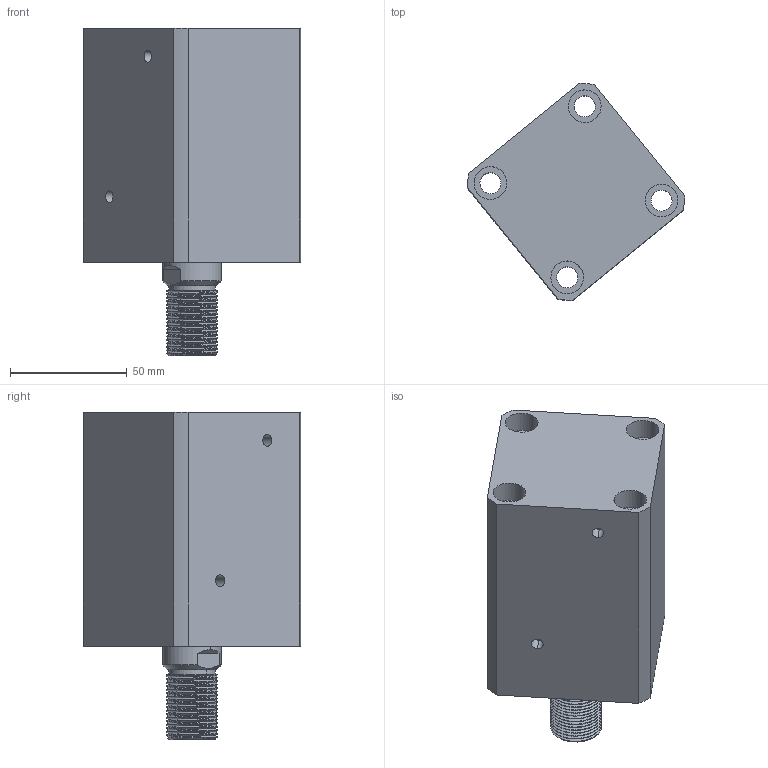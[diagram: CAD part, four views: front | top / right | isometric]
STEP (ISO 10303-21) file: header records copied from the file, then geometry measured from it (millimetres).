
FILE_DESCRIPTION (( 'STEP AP214' ), '1' );
FILE_NAME ('chtb-sdma40x45w_asm.STEP', '2018-06-05T08:36:09', ( 'Windows' ), ( 'Microsoft' ), 'SwSTEP 2.0', 'SolidWorks 2015', '' );
FILE_SCHEMA (( 'AUTOMOTIVE_DESIGN' ));
Length unit declared in the file: millimetre
Products named in the file (4): chtb-sdma40x45w_asm; CHTB-SDMA40X45NBT; CHTB-SD40X45WHSG; CHTB-SD40QG
Assembly tree (3 placements, depth 2):
  chtb-sdma40x45w_asm
    CHTB-SD40QG
    CHTB-SD40X45WHSG
    CHTB-SDMA40X45NBT
Bounding box: 92.94 x 92.94 x 140 mm (x, y, z)
Volume: 429273.5 mm3; surface area: 88912.9 mm2
Topology: 3 solids, 4 shells, 203 faces, 545 edges, 363 vertices
Faces by surface type: cylinder 122, plane 40, bspline 16, torus 14, cone 11
Entity records: 13587 total; most frequent: CARTESIAN_POINT 8658, ORIENTED_EDGE 1078, DIRECTION 914, EDGE_CURVE 539, AXIS2_PLACEMENT_3D 378, VERTEX_POINT 363, EDGE_LOOP 240, FACE_OUTER_BOUND 203
